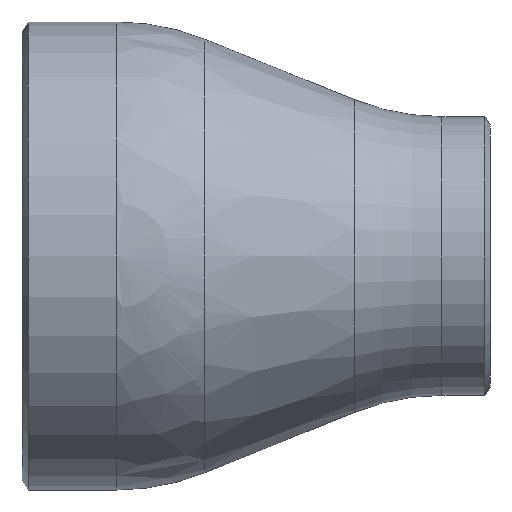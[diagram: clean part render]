
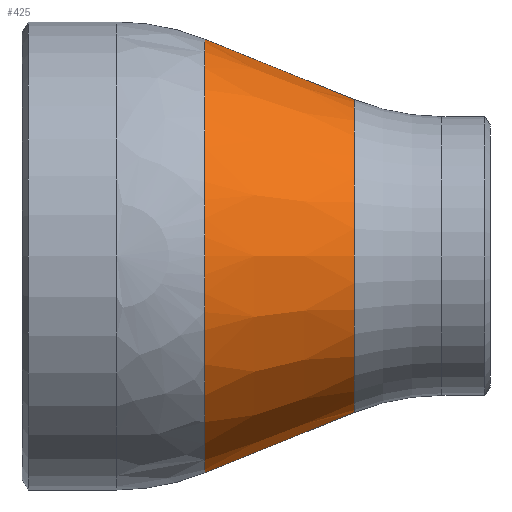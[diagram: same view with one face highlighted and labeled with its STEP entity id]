
A CAD part, front view. The second image highlights one B-rep face of the part: STEP entity #425.
In plain terms, the highlighted conical face has half-angle 22.025 degrees and reference radius 30.25 mm.
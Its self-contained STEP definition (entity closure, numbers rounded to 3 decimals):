
#19 = AXIS2_PLACEMENT_3D ( 'NONE', #154, #103, #40 ) ;
#22 = CARTESIAN_POINT ( 'NONE',  ( 81.28, 0., 0. ) ) ;
#40 = DIRECTION ( 'NONE',  ( 0., 0., 1. ) ) ;
#53 = CARTESIAN_POINT ( 'NONE',  ( 39.644, 0., -47.093 ) ) ;
#62 = CARTESIAN_POINT ( 'NONE',  ( 72.116, 0., 33.957 ) ) ;
#103 = DIRECTION ( 'NONE',  ( -1., 0., 0. ) ) ;
#154 = CARTESIAN_POINT ( 'NONE',  ( 72.116, 0., 0. ) ) ;
#157 = CIRCLE ( 'NONE', #19, 33.957 ) ;
#185 = ORIENTED_EDGE ( 'NONE', *, *, #488, .T. ) ;
#203 = ORIENTED_EDGE ( 'NONE', *, *, #479, .F. ) ;
#212 = DIRECTION ( 'NONE',  ( -1., 0., 0. ) ) ;
#222 = CARTESIAN_POINT ( 'NONE',  ( 81.28, 0., -30.25 ) ) ;
#252 = VERTEX_POINT ( 'NONE', #705 ) ;
#276 = EDGE_CURVE ( 'NONE', #252, #367, #157, .T. ) ;
#335 = LINE ( 'NONE', #222, #709 ) ;
#367 = VERTEX_POINT ( 'NONE', #62 ) ;
#374 = ORIENTED_EDGE ( 'NONE', *, *, #276, .T. ) ;
#384 = DIRECTION ( 'NONE',  ( 0., 0., 1. ) ) ;
#395 = DIRECTION ( 'NONE',  ( -0.927, 0., -0.375 ) ) ;
#398 = CARTESIAN_POINT ( 'NONE',  ( 81.28, 0., 30.25 ) ) ;
#425 = ADVANCED_FACE ( 'NONE', ( #632 ), #708, .T. ) ;
#436 = ORIENTED_EDGE ( 'NONE', *, *, #487, .T. ) ;
#453 = DIRECTION ( 'NONE',  ( -0.927, 0., 0.375 ) ) ;
#469 = VERTEX_POINT ( 'NONE', #53 ) ;
#479 = EDGE_CURVE ( 'NONE', #252, #469, #335, .T. ) ;
#487 = EDGE_CURVE ( 'NONE', #504, #469, #527, .T. ) ;
#488 = EDGE_CURVE ( 'NONE', #367, #504, #620, .T. ) ;
#492 = EDGE_LOOP ( 'NONE', ( #203, #374, #185, #436 ) ) ;
#498 = DIRECTION ( 'NONE',  ( 1., 0., 0. ) ) ;
#504 = VERTEX_POINT ( 'NONE', #563 ) ;
#512 = AXIS2_PLACEMENT_3D ( 'NONE', #22, #212, #384 ) ;
#527 = CIRCLE ( 'NONE', #584, 47.093 ) ;
#561 = CARTESIAN_POINT ( 'NONE',  ( 39.644, 0., 0. ) ) ;
#563 = CARTESIAN_POINT ( 'NONE',  ( 39.644, 0., 47.093 ) ) ;
#584 = AXIS2_PLACEMENT_3D ( 'NONE', #561, #498, #662 ) ;
#620 = LINE ( 'NONE', #398, #660 ) ;
#632 = FACE_OUTER_BOUND ( 'NONE', #492, .T. ) ;
#660 = VECTOR ( 'NONE', #453, 1000. ) ;
#662 = DIRECTION ( 'NONE',  ( 0., 0., 1. ) ) ;
#705 = CARTESIAN_POINT ( 'NONE',  ( 72.116, 0., -33.957 ) ) ;
#708 = CONICAL_SURFACE ( 'NONE', #512, 30.25, 0.384 ) ;
#709 = VECTOR ( 'NONE', #395, 1000. ) ;
